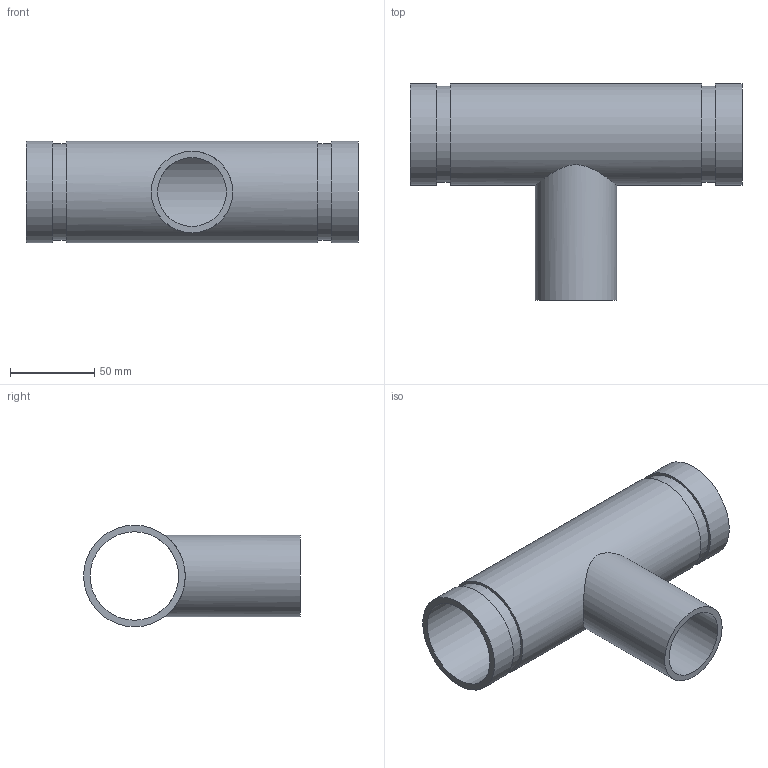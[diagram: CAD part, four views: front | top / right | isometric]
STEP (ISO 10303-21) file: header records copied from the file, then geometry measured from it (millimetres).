
FILE_DESCRIPTION(/* description */ ('VIC REDUCING TEE No 29T FFT (OGSxMPT)','CAx-IF Rec.Pracs.---Representation and Presentation of Product Manufacturing Information (PMI)---4.0---2014-10-13'),/* implementation_level */ '2;1');
FILE_NAME(/* name */ 'C:\Users\kkamble\AppData\Roaming\Autodesk\ApplicationPlugins\Back Up\Victaulic_IPS_Tee Reducing_No 29T FFT (OGSxMPT)\Victaulic_IPS_Tee Reducing_No 29T FFT (OGSxMPT)_02.0x01.5 (50x40).stp',/* time_stamp */ '2020-09-16T22:37:15+05:00',/* author */ ('CORINNE GRAY'),/* organization */ ('Victaulic'),/* preprocessor_version */ 'ST-DEVELOPER v17.2',/* originating_system */ 'Autodesk Inventor 2019',/* authorisation */ '');
FILE_SCHEMA (('AP242_MANAGED_MODEL_BASED_3D_ENGINEERING_MIM_LF { 1 0 10303 442 1 1 4 }'));
Length unit declared in the file: inch
Products named in the file (1): 29 FFT-02.0x01.5
Bounding box: 197.1 x 128.71 x 60.33 mm (x, y, z)
Volume: 164128.2 mm3; surface area: 90409.7 mm2
Topology: 1 solids, 1 shells, 15 faces, 32 edges, 24 vertices
Faces by surface type: cylinder 8, plane 7
Full cylindrical faces by diameter (mm): 40.894 x1, 48.26 x1, 52.502 x1, 57.15 x2, 60.325 x3
Entity records: 709 total; most frequent: CARTESIAN_POINT 221, DIRECTION 106, ORIENTED_EDGE 64, AXIS2_PLACEMENT_3D 49, EDGE_CURVE 32, EDGE_LOOP 24, VERTEX_POINT 24, CIRCLE 20
